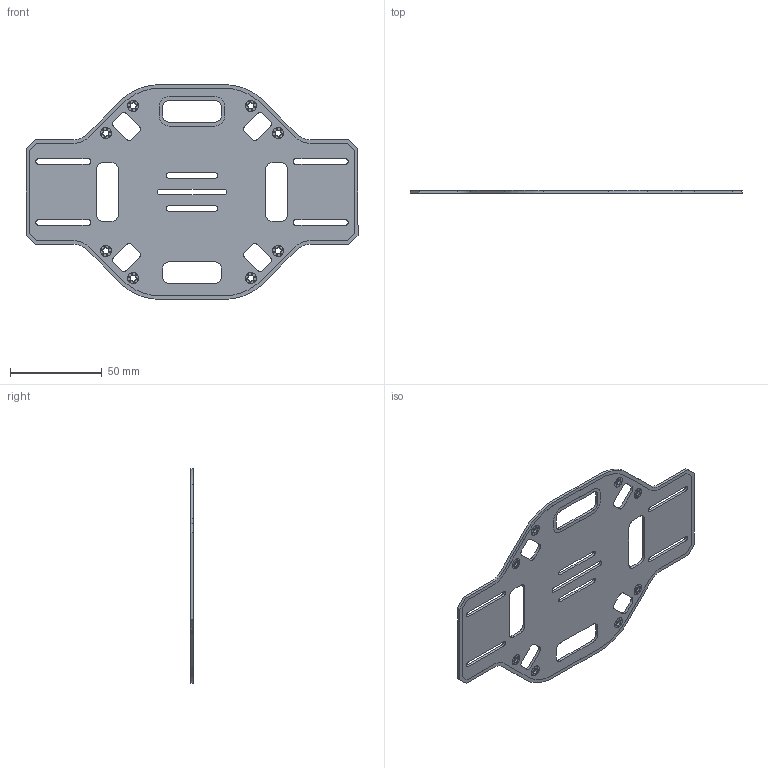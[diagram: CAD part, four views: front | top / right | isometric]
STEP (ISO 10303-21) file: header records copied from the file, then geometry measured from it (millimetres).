
FILE_DESCRIPTION(/* description */ ('STEP AP203'),/* implementation_level */ '2;1');
FILE_NAME(/* name */ 'C:\Users\Brayo\Documents\Kipepeo\CAD\Prototype\Frame\F450-MODEL\F450 Btm Plate.stp',/* time_stamp */ '2025-10-07T18:02:17+03:00',/* author */ ('Brayo'),/* organization */ (''),/* preprocessor_version */ 'ST-DEVELOPER v20',/* originating_system */ 'Autodesk Inventor 2022',/* authorisation */ '');
FILE_SCHEMA (('AUTOMOTIVE_DESIGN { 1 0 10303 214 3 1 1 }'));
Length unit declared in the file: millimetre
Products named in the file (1): F450 Btm Plate
Bounding box: 180.5 x 1.52 x 116.75 mm (x, y, z)
Volume: 19285.9 mm3; surface area: 28131.3 mm2
Topology: 1 solids, 1 shells, 414 faces, 1120 edges, 746 vertices
Faces by surface type: plane 214, cylinder 200
Full cylindrical faces by diameter (mm): 0.5 x48, 3.25 x8, 6 x16
Entity records: 13889 total; most frequent: DIRECTION 2352, CARTESIAN_POINT 2281, ORIENTED_EDGE 2240, EDGE_CURVE 1120, AXIS2_PLACEMENT_3D 817, VERTEX_POINT 746, LINE 718, VECTOR 718
